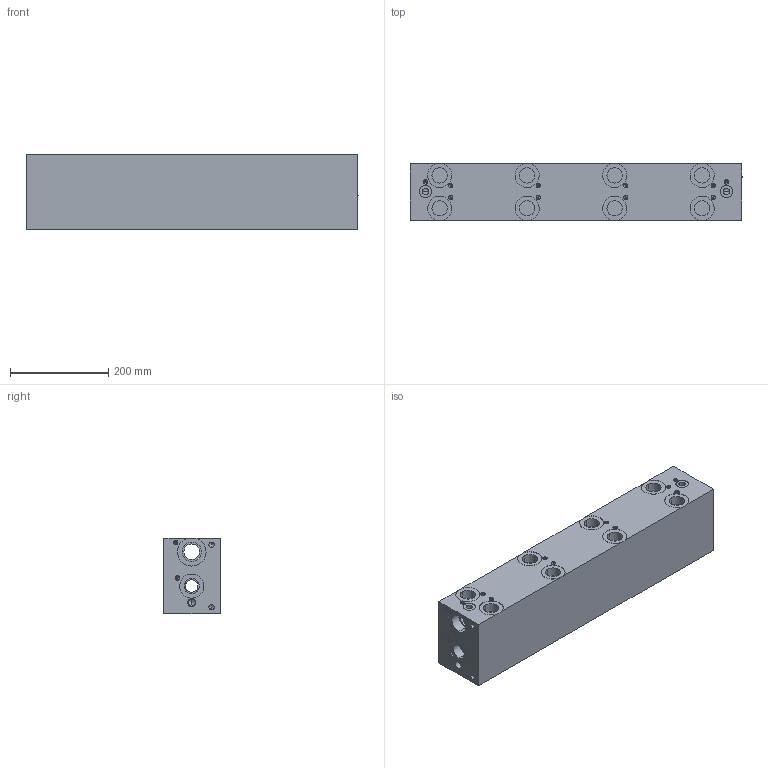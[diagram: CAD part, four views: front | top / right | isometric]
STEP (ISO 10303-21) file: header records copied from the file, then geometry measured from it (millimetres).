
FILE_DESCRIPTION (( 'STEP AP203' ), '1' );
FILE_NAME ('BM-ASS08S7-04-0_Z.STEP', '2015-01-06T16:28:36', ( '' ), ( '' ), 'SwSTEP 2.0', 'SolidWorks 2014', '' );
FILE_SCHEMA (( 'CONFIG_CONTROL_DESIGN' ));
Length unit declared in the file: inch
Products named in the file (1): BM-ASS08S7-04-0_Z
Bounding box: 674.62 x 114.3 x 152.4 mm (x, y, z)
Volume: 10564822.6 mm3; surface area: 571458.2 mm2
Topology: 1 solids, 1 shells, 765 faces, 1883 edges, 1152 vertices
Faces by surface type: plane 292, cylinder 267, cone 128, bspline 78
Entity records: 26393 total; most frequent: CARTESIAN_POINT 8942, ORIENTED_EDGE 3518, DIRECTION 3509, EDGE_CURVE 1759, AXIS2_PLACEMENT_3D 1226, VERTEX_POINT 1152, LINE 1057, VECTOR 1057
